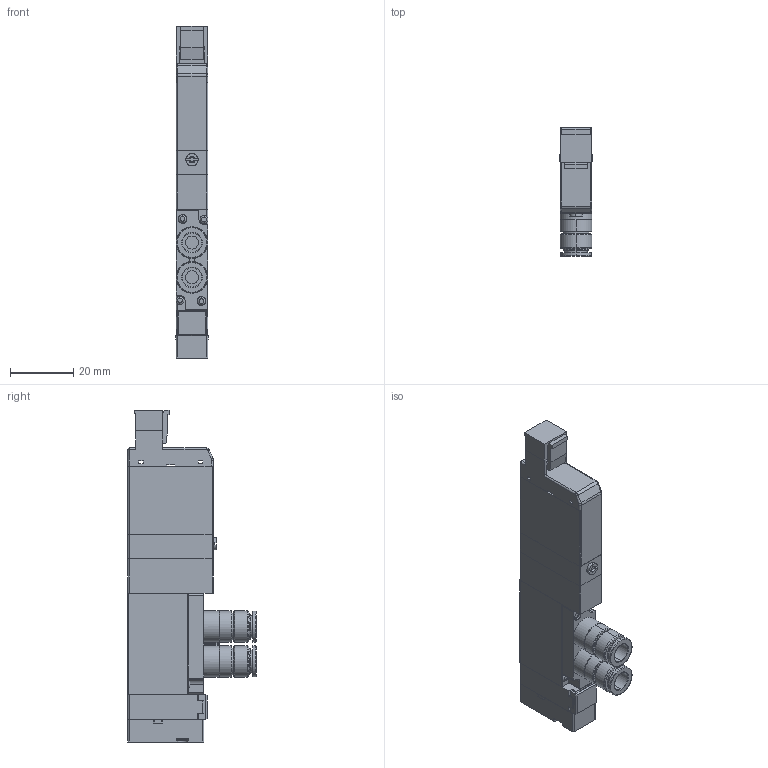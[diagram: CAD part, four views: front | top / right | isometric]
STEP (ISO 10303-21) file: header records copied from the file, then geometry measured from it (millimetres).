
FILE_DESCRIPTION( (''), '2;1');
FILE_NAME ('CVICAD02.13484.F10T1-FJ-PS_5787.stp','2020-09-01T14:10:15',(''),(''),'spGate 12.6.6','','');
FILE_SCHEMA (('AUTOMOTIVE_DESIGN'));
Length unit declared in the file: millimetre
Products named in the file (8): Assembly; F10_Adptor; F_3PortBody; F10_Cap; F10_SwitchBlock1; F10T_Body; F_Connector-PS; F10_Port-FJ
Assembly tree (7 placements, depth 2):
  Assembly
    F10_Adptor
    F_3PortBody
    F10_Cap
    F10_SwitchBlock1
    F10T_Body
    F_Connector-PS
    F10_Port-FJ
Bounding box: 10.2 x 40.5 x 105 mm (x, y, z)
Volume: 26274.5 mm3; surface area: 13129 mm2
Topology: 7 solids, 7 shells, 414 faces, 1034 edges, 660 vertices
Faces by surface type: plane 223, cylinder 127, bspline 62, sphere 2
Entity records: 21490 total; most frequent: CARTESIAN_POINT 3206, ORIENTED_EDGE 2064, DIRECTION 1998, COLOUR_RGB 1453, PRESENTATION_STYLE_ASSIGNMENT 1453, STYLED_ITEM 1453, EDGE_CURVE 1032, DRAUGHTING_PRE_DEFINED_CURVE_FONT 1032
